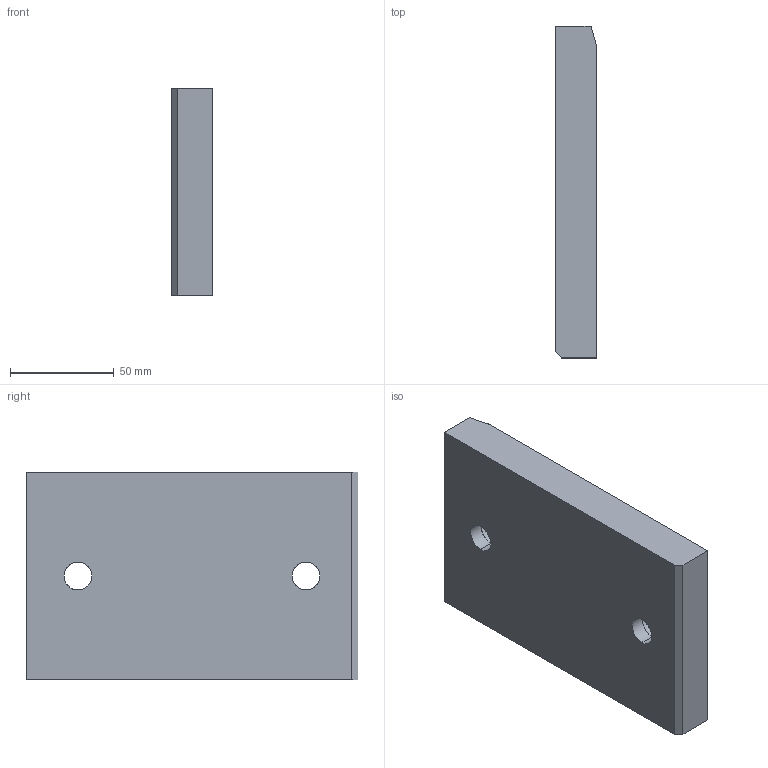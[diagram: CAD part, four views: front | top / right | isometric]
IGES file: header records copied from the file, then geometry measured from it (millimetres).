
Start section: START RECORD GO HERE.
Global section: file name: A915-100X160.igs; native system: DASSAULT SYSTEMES CATIA V5 R20 - www.3ds.com; preprocessor: CATIA Version 5 Release 20 ; author: Utente; organization: NB04-ASUS; date: 20200407.211217; units: millimetre
Bounding box: 20 x 160 x 100 mm (x, y, z)
Surface area: 43456.1 mm2 (no closed solid volume)
Topology: 0 solids, 0 shells, 23 faces, 106 edges, 106 vertices
Faces by surface type: revolution 13, extrusion 10
